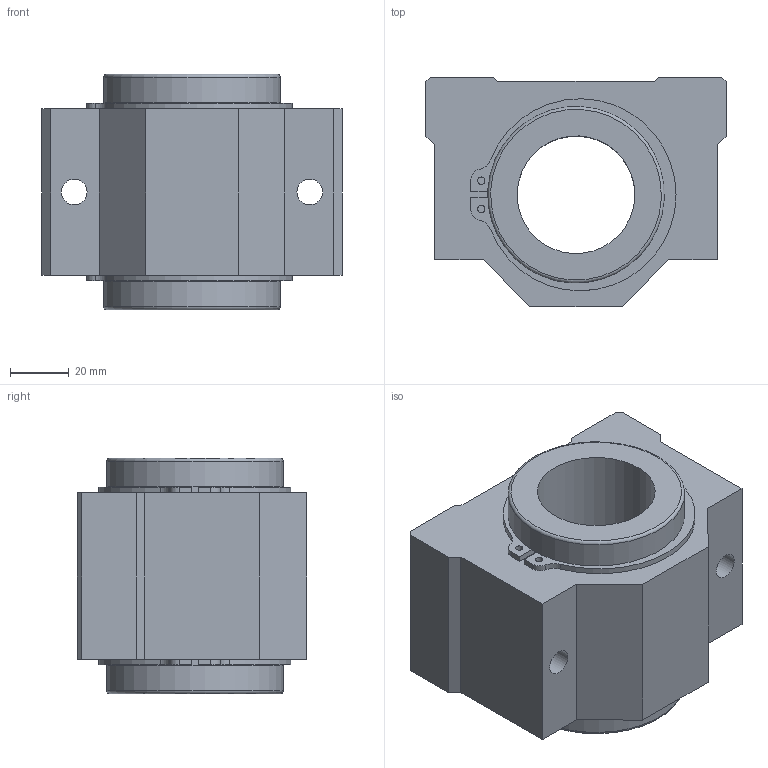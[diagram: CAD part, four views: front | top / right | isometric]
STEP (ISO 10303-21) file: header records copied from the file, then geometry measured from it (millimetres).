
FILE_DESCRIPTION(('STEP AP203'),'1');
FILE_NAME('//192.168.1.1/share/s-4 技術開発/s-4-4_CAD/s-4-4-3_見直し済み/008 修正済み/LC-C/LC-C_TOP/LC-40VCUU.step','2022-05-19T01:24:49',(' '),(' '),'Spatial InterOp 3D',' ',' ');
FILE_SCHEMA(('CONFIG_CONTROL_DESIGN'));
Length unit declared in the file: millimetre
Products named in the file (4): 1; 2; 3; 4
Bounding box: 102 x 78 x 80 mm (x, y, z)
Volume: 341855.8 mm3; surface area: 74900.8 mm2
Topology: 4 solids, 4 shells, 67 faces, 166 edges, 111 vertices
Faces by surface type: plane 38, cylinder 27, torus 2
Full cylindrical faces by diameter (mm): 2.5 x4, 8.7 x4, 40 x1, 57 x2, 60 x4
Entity records: 2080 total; most frequent: DIRECTION 340, CARTESIAN_POINT 321, ORIENTED_EDGE 288, EDGE_CURVE 144, AXIS2_PLACEMENT_3D 125, VERTEX_POINT 106, EDGE_LOOP 104, LINE 90
